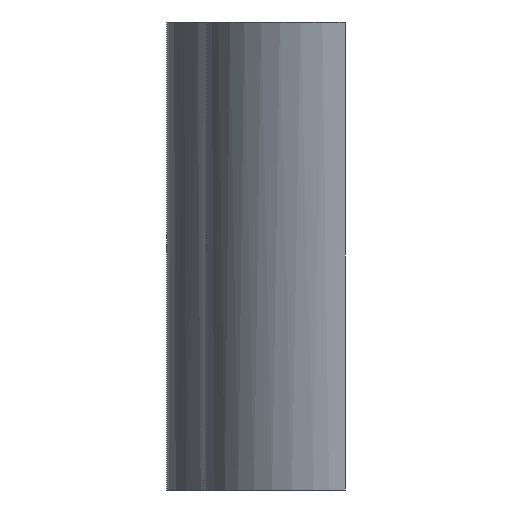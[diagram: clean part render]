
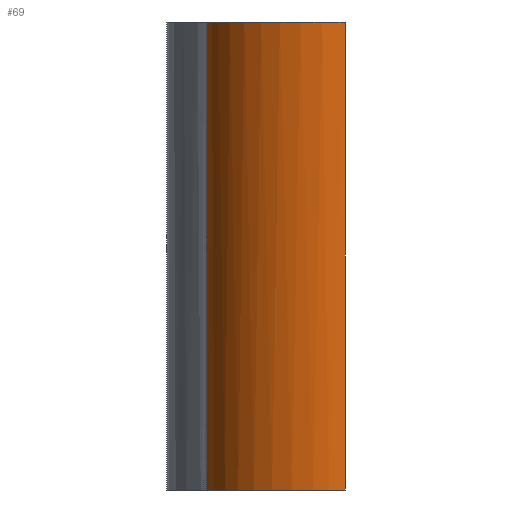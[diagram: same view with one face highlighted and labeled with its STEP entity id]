
A CAD part, left-side view. The second image highlights one B-rep face of the part: STEP entity #69.
In plain terms, the highlighted free-form (B-spline) face has degree [3, 1] with [4, 2] control points.
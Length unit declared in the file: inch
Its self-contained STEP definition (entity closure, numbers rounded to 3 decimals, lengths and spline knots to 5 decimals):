
#69=ADVANCED_FACE('',(#136),#137,.T.);
#136=FACE_OUTER_BOUND('',#262,.T.);
#137=B_SPLINE_SURFACE_WITH_KNOTS('',3,1,((#263,#264),(#265,#266),(#267,#268),(#269,#270)),.UNSPECIFIED.,.F.,.F.,.F.,(4,4),(2,2),(0.0,1.0),(0.0,0.8125),.UNSPECIFIED.);
#262=EDGE_LOOP('',(#385,#386,#387,#388));
#263=CARTESIAN_POINT('',(0.18739,0.23999,0.0));
#264=CARTESIAN_POINT('',(0.18739,0.23999,0.8125));
#265=CARTESIAN_POINT('',(0.07726,0.21246,0.0));
#266=CARTESIAN_POINT('',(0.07726,0.21246,0.8125));
#267=CARTESIAN_POINT('',(0.0,0.11353,0.0));
#268=CARTESIAN_POINT('',(0.0,0.11353,0.8125));
#269=CARTESIAN_POINT('',(0.0,0.0,0.0));
#270=CARTESIAN_POINT('',(0.0,0.0,0.8125));
#385=ORIENTED_EDGE('',*,*,#490,.T.);
#386=ORIENTED_EDGE('',*,*,#458,.F.);
#387=ORIENTED_EDGE('',*,*,#479,.T.);
#388=ORIENTED_EDGE('',*,*,#491,.T.);
#458=EDGE_CURVE('',#541,#536,#543,.T.);
#479=EDGE_CURVE('',#541,#569,#572,.T.);
#490=EDGE_CURVE('',#587,#536,#588,.T.);
#491=EDGE_CURVE('',#569,#587,#589,.T.);
#536=VERTEX_POINT('',#666);
#541=VERTEX_POINT('',#675);
#543=LINE('',#680,#681);
#569=VERTEX_POINT('',#732);
#572=B_SPLINE_CURVE_WITH_KNOTS('',3,(#736,#737,#738,#739),.UNSPECIFIED.,.F.,.F.,(4,4),(0.0,1.0),.UNSPECIFIED.);
#587=VERTEX_POINT('',#769);
#588=B_SPLINE_CURVE_WITH_KNOTS('',3,(#770,#771,#772,#773),.UNSPECIFIED.,.F.,.F.,(4,4),(-1.0,-0.0),.UNSPECIFIED.);
#589=LINE('',#774,#775);
#666=CARTESIAN_POINT('',(0.18739,0.23999,0.8125));
#675=CARTESIAN_POINT('',(0.18739,0.23999,0.0));
#680=CARTESIAN_POINT('',(0.18739,0.23999,0.0));
#681=VECTOR('',#804,1.0);
#732=CARTESIAN_POINT('',(0.0,0.0,0.0));
#736=CARTESIAN_POINT('',(0.18739,0.23999,0.0));
#737=CARTESIAN_POINT('',(0.07726,0.21246,0.0));
#738=CARTESIAN_POINT('',(0.0,0.11353,0.0));
#739=CARTESIAN_POINT('',(0.0,0.0,0.0));
#769=CARTESIAN_POINT('',(0.0,0.0,0.8125));
#770=CARTESIAN_POINT('',(0.0,0.0,0.8125));
#771=CARTESIAN_POINT('',(0.0,0.11353,0.8125));
#772=CARTESIAN_POINT('',(0.07726,0.21246,0.8125));
#773=CARTESIAN_POINT('',(0.18739,0.23999,0.8125));
#774=CARTESIAN_POINT('',(0.0,0.0,0.0));
#775=VECTOR('',#816,1.0);
#804=DIRECTION('',(0.0,0.0,1.0));
#816=DIRECTION('',(0.0,0.0,1.0));
